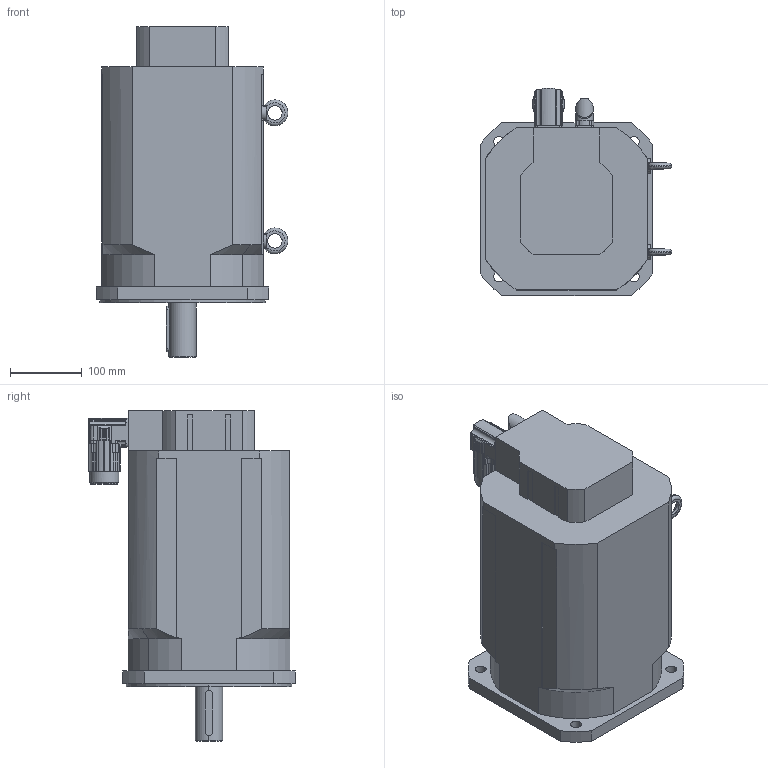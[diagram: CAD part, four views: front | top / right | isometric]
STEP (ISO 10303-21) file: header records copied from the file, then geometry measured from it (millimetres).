
FILE_DESCRIPTION(('STEP AP203'),'2;1');
FILE_NAME('MT8-0680_X.stp','2006-08-28T20:56:23',(''),(''),'2005.2.102','THINKDESIGN','');
FILE_SCHEMA(('CONFIG_CONTROL_DESIGN'));
Length unit declared in the file: millimetre
Bounding box: 266.5 x 287.18 x 460 mm (x, y, z)
Volume: 16717257.9 mm3; surface area: 466146.8 mm2
Topology: 5 solids, 5 shells, 534 faces, 1442 edges, 929 vertices
Faces by surface type: cylinder 259, plane 194, bspline 81
Full cylindrical faces by diameter (mm): 20 x2, 23 x1, 37.8 x1, 40 x1
Entity records: 19287 total; most frequent: CARTESIAN_POINT 5926, ORIENTED_EDGE 2872, DIRECTION 2774, EDGE_CURVE 1436, AXIS2_PLACEMENT_3D 1055, VERTEX_POINT 929, VECTOR 664, LINE 664
